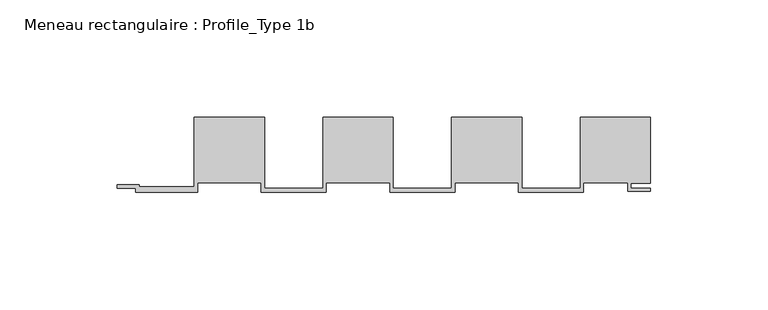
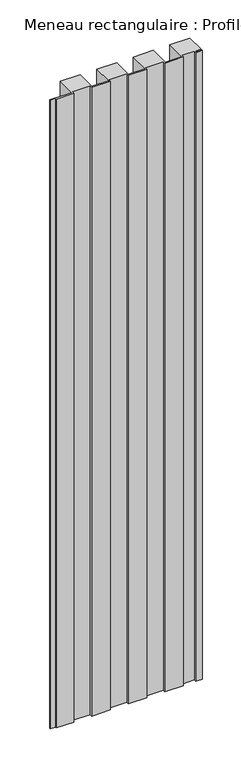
"""IFC4 building model written with IfcOpenShell, lengths in millimetres: member geometry, Meneau rectangulaire : Profile_Type 1b."""

from ifc_helpers import new_model, si_unit, point, frame, frame_2d, origin, place, context, project, spatial, polyline, circle_curve, trimmed, segment, composite_curve, outline, extrude, source, transform, mapped, element, save


def meneau_rectangulaire_profile_type_1b_1f7bf087(model_context):
    return source(origin(), model_context, "Body", "SweptSolid", [
        extrude(outline(composite_curve([segment(polyline([(-0.0301449, 41.0007666), (-0.0301449, 13.1989007)]), True, "CONTINUOUS"), segment(trimmed(circle_curve(frame_2d((-0.5290456, 13.1989007)), 0.4989007), [point((-0.0301449, 13.1989007))], [point((-0.5290456, 12.7))], False, "CARTESIAN"), True, "CONTINUOUS"), segment(polyline([(-0.5290456, 12.7), (-8.4195527, 12.7), (-8.4195527, 10.5), (0.0, 10.5), (0.0, 9.4), (-9.6195527, 9.4), (-9.6195527, 12.9), (-28.6301449, 12.9), (-28.6301449, 8.8), (-56.4270875, 8.8), (-56.4270875, 12.9), (-83.6270875, 12.9), (-83.6270875, 8.8), (-111.4240301, 8.8), (-111.4240301, 12.9), (-138.6240301, 12.9), (-138.6240301, 8.8), (-166.4209727, 8.8), (-166.4209727, 12.9), (-193.6209727, 12.9), (-193.6209727, 8.8), (-219.9937223, 8.8), (-219.9937223, 10.65), (-227.991216, 10.65), (-227.991216, 12.0), (-218.4753672, 12.0), (-218.4753672, 11.2), (-195.0209727, 11.2), (-195.0209727, 41.0007666), (-165.0209727, 41.0007666), (-165.0209727, 10.65), (-140.0240301, 10.65), (-140.0240301, 41.0007666), (-109.9788571, 41.0007666), (-109.9788571, 10.65), (-85.0270875, 10.65), (-85.0270875, 41.0007666), (-55.0270875, 41.0007666), (-55.0270875, 10.65), (-30.0301449, 10.65), (-30.0301449, 41.0007666), (-0.0301449, 41.0007666)]), True, "CONTINUOUS")], self_intersect=False)), frame((0.0, 0.0, -1000.0), z_axis=(0.0, 0.0, 1.0), x_axis=(1.0, 0.0, 0.0)), (0.0, 0.0, 1.0), 1000.0),
    ])


if __name__ == "__main__":
    model = new_model("IFC4")
    model_context = context("Model", 3, world=origin())
    ifc_project = project(units=[si_unit("LENGTHUNIT", "METRE", prefix="MILLI")], contexts=[model_context])
    site = spatial("IfcSite", under=ifc_project)
    building = spatial("IfcBuilding", under=site)
    placement = place(None, origin())
    meneau_rectangulaire_profile_type_1b_shape = meneau_rectangulaire_profile_type_1b_1f7bf087(model_context)
    element("IfcMember", 1, ObjectType="Meneau rectangulaire : Profile_Type 1b", at=placement, inside=building, context=model_context, shape_type="MappedRepresentation", body=[
        mapped(meneau_rectangulaire_profile_type_1b_shape, transform((0.0, 0.0, 0.0), x_axis=(1.0, 0.0, 0.0), y_axis=(0.0, 1.0, 0.0), z_axis=(0.0, 0.0, 1.0))),
    ])
    save(model, "model.ifc")
